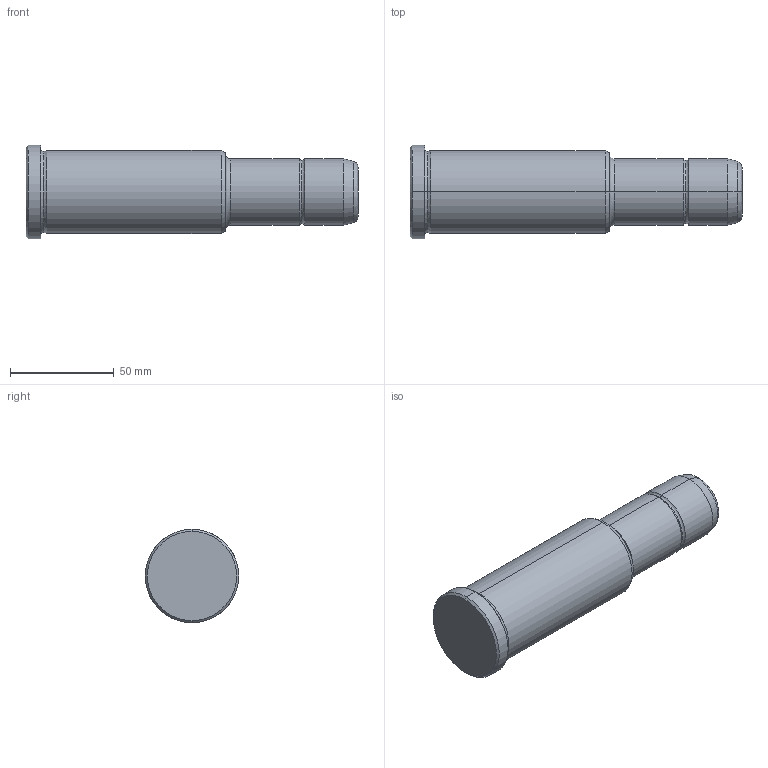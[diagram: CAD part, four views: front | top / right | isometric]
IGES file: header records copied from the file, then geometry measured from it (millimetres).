
Start section: START RECORD GO HERE.
Global section: file name: 351-32X96X160.igs; native system: DASSAULT SYSTEMES CATIA V5 R20 - www.3ds.com; preprocessor: CATIA Version 5 Release 20 ; author: Utente; organization: NB04-ASUS; date: 20210910.142228; units: millimetre
Bounding box: 160 x 45 x 45 mm (x, y, z)
Surface area: 21305.4 mm2 (no closed solid volume)
Topology: 0 solids, 0 shells, 30 faces, 172 edges, 172 vertices
Faces by surface type: revolution 26, plane 4
